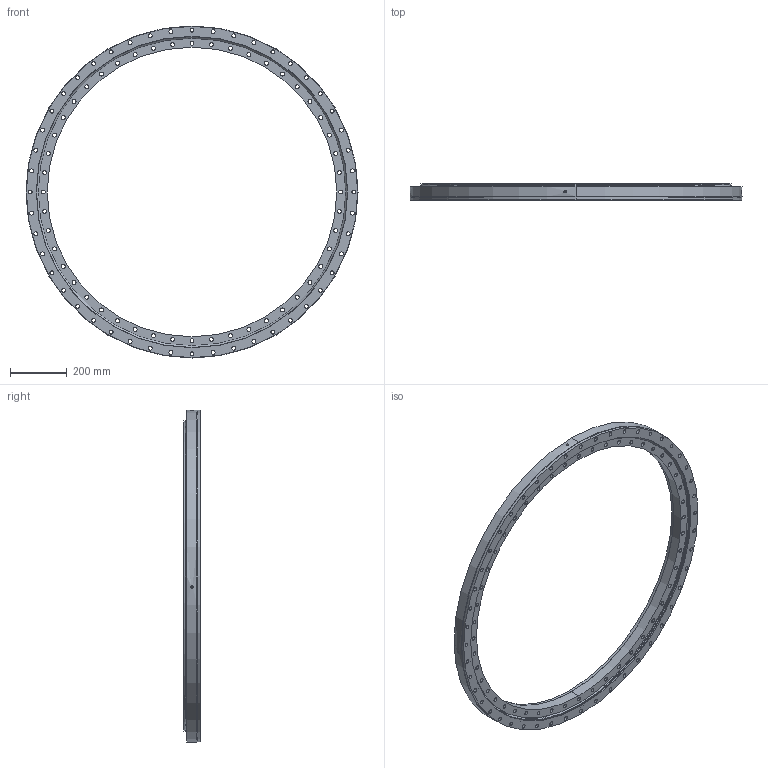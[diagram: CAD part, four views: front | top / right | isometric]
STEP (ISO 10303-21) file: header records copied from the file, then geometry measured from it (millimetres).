
FILE_DESCRIPTION (( 'STEP AP214' ), '1' );
FILE_NAME ('B2120-0-1170AA.STEP', '2022-11-24T06:43:57', ( '' ), ( '' ), 'SwSTEP 2.0', 'SolidWorks 2020', '' );
FILE_SCHEMA (( 'AUTOMOTIVE_DESIGN' ));
Length unit declared in the file: millimetre
Products named in the file (1): B2120-0-1170AA
Bounding box: 1170 x 57 x 1170 mm (x, y, z)
Volume: 11042339 mm3; surface area: 1630526 mm2
Topology: 4 solids, 4 shells, 272 faces, 744 edges, 492 vertices
Faces by surface type: cylinder 240, plane 20, cone 12
Entity records: 10085 total; most frequent: CARTESIAN_POINT 2285, DIRECTION 1734, ORIENTED_EDGE 1488, EDGE_CURVE 744, AXIS2_PLACEMENT_3D 741, VERTEX_POINT 492, EDGE_LOOP 492, CIRCLE 468
